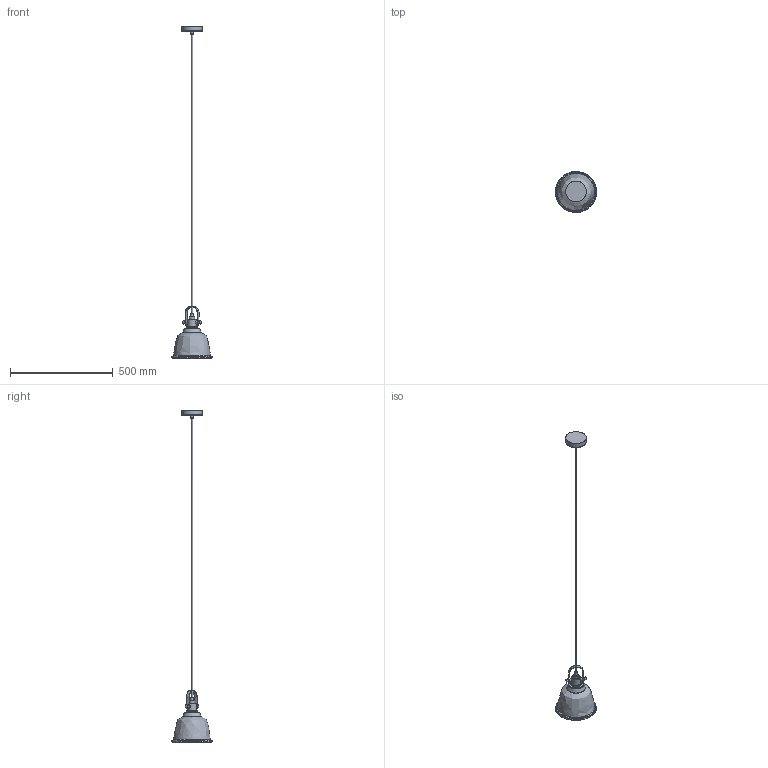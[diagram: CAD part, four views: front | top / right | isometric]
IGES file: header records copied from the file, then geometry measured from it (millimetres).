
Start section: SolidWorks IGES file using NURBS representation for surfaces
Global section: file name: Z:\Modele 3D_WWW\_KOLEKCJE WWW\AMALFI\9152\AMALFI-9152.IGS; native system: SolidWorks 2021; preprocessor: SolidWorks 2021; author: gabriela.tworek; date: 220307.111249; units: millimetre
Bounding box: 199.99 x 199.97 x 1614.91 mm (x, y, z)
Surface area: 234384 mm2 (no closed solid volume)
Topology: 0 solids, 0 shells, 80 faces, 358 edges, 321 vertices
Faces by surface type: bspline 80
